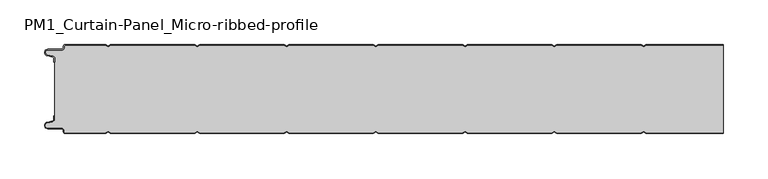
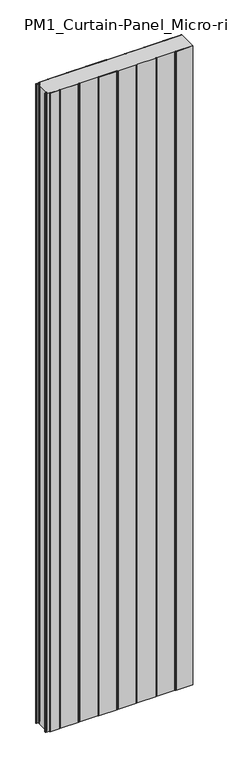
"""IFC4 building model written with IfcOpenShell, lengths in millimetres: plate geometry, PM1_Curtain-Panel_Micro-ribbed-profile : ACH_PM1_Stone-wool-Panel_100M."""

import ifcopenshell
import ifcopenshell.guid

model = None  # the IFC model being written
_history = None  # IfcOwnerHistory: only IFC2X3 demands one
_inside = {}  # id of a spatial element -> (the spatial element, [elements in it])
_under = {}  # id of a project, library or spatial element -> (it, [spatial elements below it])
_declared = {}  # id of a project -> (the project, [libraries it declares])
_typed = {}  # id of a type object -> (the type object, [elements of that type])
_made_of = {}  # id of a material, layer set ... -> (it, [elements and type objects made of it])


def new_model(schema):
    """Start an empty IFC model of exactly this schema.

    Asked for "IFC4X3", IfcOpenShell would pick the latest addendum, in which some entities
    have other attributes; the version numbers below select the first issue.
    IFC2X3 requires an IfcOwnerHistory on every rooted entity: one is made here for all.
    """
    global model, _history
    if schema == "IFC4X3":
        model = ifcopenshell.file(schema_version=(4, 3, 0, 0))
    else:
        model = ifcopenshell.file(schema=schema)
    _inside.clear()
    _under.clear()
    _declared.clear()
    _typed.clear()
    _made_of.clear()
    _history = None
    if model.schema == "IFC2X3":
        org = make("IfcOrganization", Name="unknown")
        user = make(
            "IfcPersonAndOrganization",
            ThePerson=make("IfcPerson", FamilyName="unknown"),
            TheOrganization=org,
        )
        app = make(
            "IfcApplication",
            ApplicationDeveloper=org,
            Version="unknown",
            ApplicationFullName="unknown",
            ApplicationIdentifier="unknown",
        )
        _history = make(
            "IfcOwnerHistory",
            OwningUser=user,
            OwningApplication=app,
            ChangeAction="ADDED",
            CreationDate=0,
        )
    return model


def make(cls, **values):
    """One entity of the class cls with the attributes given. An attribute that is None is left unset."""
    return model.create_entity(
        cls, **{name: value for name, value in values.items() if value is not None}
    )


def rooted(cls, **values):
    """An entity with a GlobalId (a new one), such as an element, a storey or a relation."""
    return make(cls, GlobalId=ifcopenshell.guid.new(), OwnerHistory=_history, **values)


def si_unit(unit_type, name, prefix=None):
    """IfcSIUnit, for example si_unit("LENGTHUNIT", "METRE", prefix="MILLI")."""
    return make("IfcSIUnit", UnitType=unit_type, Prefix=prefix, Name=name)


def assignment(units):
    """IfcUnitAssignment: the units of a project."""
    return None if units is None else make("IfcUnitAssignment", Units=units)


def point(xyz):
    """IfcCartesianPoint."""
    return None if xyz is None else make("IfcCartesianPoint", Coordinates=xyz)


def direction(xyz):
    """IfcDirection."""
    return None if xyz is None else make("IfcDirection", DirectionRatios=xyz)


def frame(location, z_axis=None, x_axis=None):
    """IfcAxis2Placement3D, a coordinate frame: its origin and axes. An axis left out is left unset."""
    return make(
        "IfcAxis2Placement3D",
        Location=point(location),
        Axis=direction(z_axis),
        RefDirection=direction(x_axis),
    )


def frame_2d(location, x_axis=None):
    """IfcAxis2Placement2D, a coordinate frame in the plane: its origin and x axis."""
    return make(
        "IfcAxis2Placement2D", Location=point(location), RefDirection=direction(x_axis)
    )


def origin():
    """The frame at (0, 0, 0) with its axes left unset."""
    return frame((0.0, 0.0, 0.0))


def origin_with_axes():
    """The frame at (0, 0, 0) with the z axis (0, 0, 1) and the x axis (1, 0, 0) written out."""
    return frame((0.0, 0.0, 0.0), z_axis=(0.0, 0.0, 1.0), x_axis=(1.0, 0.0, 0.0))


def place(relative_to, where):
    """IfcLocalPlacement: puts the frame where relative to a parent placement (None: the world)."""
    return make(
        "IfcLocalPlacement", PlacementRelTo=relative_to, RelativePlacement=where
    )


def context(
    kind, dimensions, precision=None, world=None, true_north=None, identifier=None
):
    """IfcGeometricRepresentationContext, for example the 3D "Model" context."""
    return make(
        "IfcGeometricRepresentationContext",
        ContextIdentifier=identifier,
        ContextType=kind,
        CoordinateSpaceDimension=dimensions,
        Precision=precision,
        WorldCoordinateSystem=world,
        TrueNorth=true_north,
    )


def project(units=None, contexts=None):
    """IfcProject with its units and contexts."""
    return rooted(
        "IfcProject",
        Name="project",
        RepresentationContexts=contexts,
        UnitsInContext=assignment(units),
    )


def spatial(cls, under=None, at=None, **own):
    """A site, building, storey or space (cls), placed at a placement, below another one or the project."""
    s = rooted(cls, ObjectPlacement=at, **own)
    if under is not None:
        _under.setdefault(under.id(), (under, []))[1].append(s)
    return s


def polyline(points):
    """IfcPolyline through the points."""
    return make("IfcPolyline", Points=[point(p) for p in points])


def circle_curve(where, radius):
    """IfcCircle in the frame where."""
    return make("IfcCircle", Position=where, Radius=radius)


def trimmed(basis, trim1, trim2, sense, master):
    """IfcTrimmedCurve: the piece of a basis curve between two trims."""
    return make(
        "IfcTrimmedCurve",
        BasisCurve=basis,
        Trim1=trim1,
        Trim2=trim2,
        SenseAgreement=sense,
        MasterRepresentation=master,
    )


def segment(curve, same_sense, transition):
    """IfcCompositeCurveSegment."""
    return make(
        "IfcCompositeCurveSegment",
        Transition=transition,
        SameSense=same_sense,
        ParentCurve=curve,
    )


def composite_curve(segments, self_intersect=None):
    """IfcCompositeCurve: segments joined end to end."""
    return make("IfcCompositeCurve", Segments=segments, SelfIntersect=self_intersect)


def outline(outer, holes=None, kind="AREA"):
    """IfcArbitraryClosedProfileDef: a profile drawn as a closed curve; with holes, ...WithVoids."""
    if holes is None:
        return make("IfcArbitraryClosedProfileDef", ProfileType=kind, OuterCurve=outer)
    return make(
        "IfcArbitraryProfileDefWithVoids",
        ProfileType=kind,
        OuterCurve=outer,
        InnerCurves=holes,
    )


def extrude(swept, where, along, depth):
    """IfcExtrudedAreaSolid: the profile swept, set in the frame where, extruded along a direction by depth."""
    return make(
        "IfcExtrudedAreaSolid",
        SweptArea=swept,
        Position=where,
        ExtrudedDirection=direction(along),
        Depth=depth,
    )


def shape(context_of_items, identifier, shape_type, items):
    """IfcShapeRepresentation: the items that make up one representation, for example the "Body"."""
    return make(
        "IfcShapeRepresentation",
        ContextOfItems=context_of_items,
        RepresentationIdentifier=identifier,
        RepresentationType=shape_type,
        Items=items,
    )


def source(mapping_origin, context_of_items, identifier, shape_type, items):
    """IfcRepresentationMap: a shape defined once, which mapped items show again and again."""
    return make(
        "IfcRepresentationMap",
        MappingOrigin=mapping_origin,
        MappedRepresentation=shape(context_of_items, identifier, shape_type, items),
    )


def transform(
    local_origin,
    x_axis=None,
    y_axis=None,
    z_axis=None,
    scale=None,
    scale2=None,
    scale3=None,
    uniform=True,
):
    """IfcCartesianTransformationOperator3D, or its non-uniform kind. x_axis, y_axis, z_axis: its Axis1, 2, 3."""
    if uniform:
        return make(
            "IfcCartesianTransformationOperator3D",
            Axis1=direction(x_axis),
            Axis2=direction(y_axis),
            LocalOrigin=point(local_origin),
            Scale=scale,
            Axis3=direction(z_axis),
        )
    return make(
        "IfcCartesianTransformationOperator3DnonUniform",
        Axis1=direction(x_axis),
        Axis2=direction(y_axis),
        LocalOrigin=point(local_origin),
        Scale=scale,
        Axis3=direction(z_axis),
        Scale2=scale2,
        Scale3=scale3,
    )


def mapped(mapping_source, mapping_target):
    """IfcMappedItem: shows the shape of a source again, moved by a transform."""
    return make(
        "IfcMappedItem", MappingSource=mapping_source, MappingTarget=mapping_target
    )


def made_of(thing, what):
    """Note that an element or type object is made of a material, layer set ...; save() writes the relation."""
    if what is not None:
        _made_of.setdefault(what.id(), (what, []))[1].append(thing)
    return thing


def element(
    cls,
    number,
    at=None,
    inside=None,
    cuts=None,
    type_object=None,
    material=None,
    context=None,
    identifier="Body",
    shape_type=None,
    held_by="IfcProductDefinitionShape",
    body=None,
    shapes=None,
    **own,
):
    """One element of the class cls, such as IfcWall. Its Tag is "e" and its number.

    at: its placement. inside: the storey or other place that contains it. cuts: it is an
    opening in that element (IfcRelVoidsElement). A single representation is given by context,
    identifier, shape_type and body (its items); several are given by shapes. held_by: the class
    of the entity that holds the representations. save() writes the other relations.
    """
    e = rooted(cls, Tag="e%d" % number, ObjectPlacement=at, **own)
    if body is not None:
        shapes = [shape(context, identifier, shape_type, body)]
    if shapes is not None:
        e.Representation = make(held_by, Representations=shapes)
    if inside is not None:
        _inside.setdefault(inside.id(), (inside, []))[1].append(e)
    if cuts is not None:
        rooted(
            "IfcRelVoidsElement", RelatingBuildingElement=cuts, RelatedOpeningElement=e
        )
    if type_object is not None:
        _typed.setdefault(type_object.id(), (type_object, []))[1].append(e)
    return made_of(e, material)


def aggregate(whole, parts):
    """IfcRelAggregates: a whole, such as a stair, and the parts it consists of."""
    return rooted("IfcRelAggregates", RelatingObject=whole, RelatedObjects=parts)


def save(model, path):
    """Write the relations noted so far, then the file.

    IfcRelAggregates (storeys below a building ...), IfcRelContainedInSpatialStructure (elements
    in a storey), IfcRelDefinesByType, IfcRelAssociatesMaterial and IfcRelDeclares: one each for
    every whole, place, type object, material and project.
    """
    for whole, parts in _under.values():
        aggregate(whole, parts)
    for where, things in _inside.values():
        rooted(
            "IfcRelContainedInSpatialStructure",
            RelatedElements=things,
            RelatingStructure=where,
        )
    for kind, things in _typed.values():
        rooted("IfcRelDefinesByType", RelatedObjects=things, RelatingType=kind)
    for what, things in _made_of.values():
        rooted("IfcRelAssociatesMaterial", RelatedObjects=things, RelatingMaterial=what)
    for by, libraries in _declared.values():
        rooted("IfcRelDeclares", RelatingContext=by, RelatedDefinitions=libraries)
    model.write(path)


def pm1_curtain_panel_micro_ribbed_profile_119ddfce(model_context):
    return source(origin(), model_context, "Body", "SweptSolid", [
        extrude(outline(composite_curve([segment(trimmed(circle_curve(frame_2d((-377.0, -15.878557)), 2.0), [point((-375.0, -15.878557))], [point((-376.5500978, -13.9298169))], True, "CARTESIAN"), True, "CONTINUOUS"), segment(polyline([(-376.5500978, -13.9298169), (-382.7098239, -12.507732)]), True, "CONTINUOUS"), segment(trimmed(circle_curve(frame_2d((-381.9, -9.0)), 3.6), [point((-382.7098239, -12.507732))], [point((-381.9, -5.4))], False, "CARTESIAN"), True, "CONTINUOUS"), segment(polyline([(-381.9, -5.4), (-366.4, -5.4)]), True, "CONTINUOUS"), segment(trimmed(circle_curve(frame_2d((-366.4, -3.4)), 2.0), [point((-366.4, -5.4))], [point((-364.4, -3.4))], True, "CARTESIAN"), True, "CONTINUOUS"), segment(polyline([(-364.4, -3.4), (-364.4, -2.0)]), True, "CONTINUOUS"), segment(trimmed(circle_curve(frame_2d((-362.4, -2.0)), 2.0), [point((-364.4, -2.0))], [point((-362.4, 0.0))], False, "CARTESIAN"), True, "CONTINUOUS"), segment(polyline([(-362.4, 0.0), (-317.0999995, 0.0), (-314.4, -1.5588455), (-311.7000005, 0.0), (-217.0999995, 0.0), (-214.4, -1.5588455), (-211.7000005, 0.0), (-117.0999995, 0.0), (-114.4, -1.5588455), (-111.7000005, 0.0), (-17.0999995, 0.0), (-14.4, -1.5588455), (-11.7000005, 0.0), (82.9000005, 0.0), (85.6, -1.5588455), (88.2999995, 0.0), (182.9000005, 0.0), (185.6, -1.5588455), (188.2999995, 0.0), (282.9000005, 0.0), (285.6, -1.5588455), (288.2999995, 0.0), (375.0, 0.0), (375.0, -0.8), (288.5143588, -0.8), (285.6, -2.482606), (282.6856412, -0.8), (188.5143588, -0.8), (185.6, -2.482606), (182.6856412, -0.8), (88.5143588, -0.8), (85.6, -2.482606), (82.6856412, -0.8), (-11.4856412, -0.8), (-14.4, -2.482606), (-17.3143588, -0.8), (-111.4856412, -0.8), (-114.4, -2.482606), (-117.3143588, -0.8), (-211.4856412, -0.8), (-214.4, -2.482606), (-217.3143588, -0.8), (-311.4856412, -0.8), (-314.4, -2.482606), (-317.3143588, -0.8), (-362.4, -0.8)]), True, "CONTINUOUS"), segment(trimmed(circle_curve(frame_2d((-362.4, -2.0)), 1.2), [point((-362.4, -0.8))], [point((-363.6, -2.0))], True, "CARTESIAN"), True, "CONTINUOUS"), segment(polyline([(-363.6, -2.0), (-363.6, -3.4)]), True, "CONTINUOUS"), segment(trimmed(circle_curve(frame_2d((-366.4, -3.4)), 2.8), [point((-363.6, -3.4))], [point((-366.4, -6.2))], False, "CARTESIAN"), True, "CONTINUOUS"), segment(polyline([(-366.4, -6.2), (-381.9, -6.2)]), True, "CONTINUOUS"), segment(trimmed(circle_curve(frame_2d((-381.9, -9.0)), 2.8), [point((-381.9, -6.2))], [point((-382.529863, -11.7282362))], True, "CARTESIAN"), True, "CONTINUOUS"), segment(polyline([(-382.529863, -11.7282362), (-376.370137, -13.150321)]), True, "CONTINUOUS"), segment(trimmed(circle_curve(frame_2d((-377.0, -15.878557)), 2.8), [point((-376.370137, -13.150321))], [point((-374.2, -15.878557))], False, "CARTESIAN"), True, "CONTINUOUS"), segment(polyline([(-374.2, -15.878557), (-374.2, -20.0), (-375.0, -20.0), (-375.0, -15.878557)]), True, "CONTINUOUS")], self_intersect=False)), origin_with_axes(), (0.0, 0.0, 1.0), 3500.0),
        extrude(outline(composite_curve([segment(polyline([(-374.2, -84.1214426), (-374.2, -15.8785573)]), True, "CONTINUOUS"), segment(trimmed(circle_curve(frame_2d((-377.0, -15.8785573)), 2.8), [point((-374.2, -15.8785573))], [point((-376.370137, -13.1503212))], True, "CARTESIAN"), True, "CONTINUOUS"), segment(polyline([(-376.370137, -13.1503212), (-382.5298631, -11.7282362)]), True, "CONTINUOUS"), segment(trimmed(circle_curve(frame_2d((-381.9, -9.0)), 2.8), [point((-382.5298631, -11.7282362))], [point((-381.9, -6.2))], False, "CARTESIAN"), True, "CONTINUOUS"), segment(polyline([(-381.9, -6.2), (-366.4000001, -6.2)]), True, "CONTINUOUS"), segment(trimmed(circle_curve(frame_2d((-366.4000001, -3.4)), 2.8), [point((-366.4000001, -6.2))], [point((-363.6000001, -3.4))], True, "CARTESIAN"), True, "CONTINUOUS"), segment(polyline([(-363.6000001, -3.4), (-363.6000001, -2.0)]), True, "CONTINUOUS"), segment(trimmed(circle_curve(frame_2d((-362.4000001, -2.0)), 1.2), [point((-363.6000001, -2.0))], [point((-362.4000001, -0.8))], False, "CARTESIAN"), True, "CONTINUOUS"), segment(polyline([(-362.4000001, -0.8), (-317.3143589, -0.8), (-314.4000001, -2.482606), (-311.4856412, -0.8), (-217.3143589, -0.8), (-214.4000001, -2.482606), (-211.4856412, -0.8), (-117.3143589, -0.8), (-114.4000001, -2.482606), (-111.4856412, -0.8), (-17.3143589, -0.8), (-14.4000001, -2.482606), (-11.4856412, -0.8), (82.6856411, -0.8), (85.5999999, -2.482606), (88.5143588, -0.8), (182.6856411, -0.8), (185.5999999, -2.482606), (188.5143588, -0.8), (282.6856411, -0.8), (285.5999999, -2.482606), (288.5143588, -0.8), (375.0, -0.8), (375.0, -99.2), (288.5143588, -99.2), (285.5999999, -97.517394), (282.6856411, -99.2), (188.5143588, -99.2), (185.5999999, -97.517394), (182.6856411, -99.2), (88.5143588, -99.2), (85.5999999, -97.517394), (82.6856411, -99.2), (-11.4856412, -99.2), (-14.4000001, -97.517394), (-17.3143589, -99.2), (-111.4856412, -99.2), (-114.4000001, -97.517394), (-117.3143589, -99.2), (-211.4856412, -99.2), (-214.4000001, -97.517394), (-217.3143589, -99.2), (-311.4856412, -99.2), (-314.4000001, -97.517394), (-317.3143589, -99.2), (-362.4000001, -99.2)]), True, "CONTINUOUS"), segment(trimmed(circle_curve(frame_2d((-362.4000001, -98.0)), 1.2), [point((-362.4000001, -99.2))], [point((-363.6000001, -98.0))], False, "CARTESIAN"), True, "CONTINUOUS"), segment(polyline([(-363.6000001, -98.0), (-363.6000001, -96.6)]), True, "CONTINUOUS"), segment(trimmed(circle_curve(frame_2d((-366.4000001, -96.6)), 2.8), [point((-363.6000001, -96.6))], [point((-366.4000001, -93.8))], True, "CARTESIAN"), True, "CONTINUOUS"), segment(polyline([(-366.4000001, -93.8), (-381.9, -93.8)]), True, "CONTINUOUS"), segment(trimmed(circle_curve(frame_2d((-381.9, -91.0)), 2.8), [point((-381.9, -93.8))], [point((-382.5298631, -88.2717638))], False, "CARTESIAN"), True, "CONTINUOUS"), segment(polyline([(-382.5298631, -88.2717638), (-376.370137, -86.8496788)]), True, "CONTINUOUS"), segment(trimmed(circle_curve(frame_2d((-377.0, -84.1214426)), 2.8), [point((-376.370137, -86.8496788))], [point((-374.2, -84.1214426))], True, "CARTESIAN"), True, "CONTINUOUS")], self_intersect=False)), origin_with_axes(), (0.0, 0.0, 1.0), 3500.0),
        extrude(outline(composite_curve([segment(polyline([(-375.0, -84.121443), (-375.0, -80.0), (-374.2, -80.0), (-374.2, -84.121443)]), True, "CONTINUOUS"), segment(trimmed(circle_curve(frame_2d((-377.0, -84.121443)), 2.8), [point((-374.2, -84.121443))], [point((-376.370137, -86.8496792))], False, "CARTESIAN"), True, "CONTINUOUS"), segment(polyline([(-376.370137, -86.8496792), (-382.529863, -88.271764)]), True, "CONTINUOUS"), segment(trimmed(circle_curve(frame_2d((-381.9, -91.0)), 2.8), [point((-382.529863, -88.271764))], [point((-381.9, -93.8))], True, "CARTESIAN"), True, "CONTINUOUS"), segment(polyline([(-381.9, -93.8), (-366.4, -93.8)]), True, "CONTINUOUS"), segment(trimmed(circle_curve(frame_2d((-366.4, -96.6)), 2.8), [point((-366.4, -93.8))], [point((-363.6, -96.6))], False, "CARTESIAN"), True, "CONTINUOUS"), segment(polyline([(-363.6, -96.6), (-363.6, -98.0)]), True, "CONTINUOUS"), segment(trimmed(circle_curve(frame_2d((-362.4, -98.0)), 1.2), [point((-363.6, -98.0))], [point((-362.4, -99.2))], True, "CARTESIAN"), True, "CONTINUOUS"), segment(polyline([(-362.4, -99.2), (-317.3143588, -99.2), (-314.4, -97.517394), (-311.4856412, -99.2), (-217.3143588, -99.2), (-214.4, -97.517394), (-211.4856412, -99.2), (-117.3143588, -99.2), (-114.4, -97.517394), (-111.4856412, -99.2), (-17.3143588, -99.2), (-14.4, -97.517394), (-11.4856412, -99.2), (82.6856412, -99.2), (85.6, -97.517394), (88.5143588, -99.2), (182.6856412, -99.2), (185.6, -97.517394), (188.5143588, -99.2), (282.6856412, -99.2), (285.6, -97.517394), (288.5143588, -99.2), (375.0, -99.2), (375.0, -100.0), (288.2999995, -100.0), (285.6, -98.4411545), (282.9000005, -100.0), (188.2999995, -100.0), (185.6, -98.4411545), (182.9000005, -100.0), (88.2999995, -100.0), (85.6, -98.4411545), (82.9000005, -100.0), (-11.7000005, -100.0), (-14.4, -98.4411545), (-17.0999995, -100.0), (-111.7000005, -100.0), (-114.4, -98.4411545), (-117.0999995, -100.0), (-211.7000005, -100.0), (-214.4, -98.4411545), (-217.0999995, -100.0), (-311.7000005, -100.0), (-314.4, -98.4411545), (-317.0999995, -100.0), (-362.4, -100.0)]), True, "CONTINUOUS"), segment(trimmed(circle_curve(frame_2d((-362.4, -98.0)), 2.0), [point((-362.4, -100.0))], [point((-364.4, -98.0))], False, "CARTESIAN"), True, "CONTINUOUS"), segment(polyline([(-364.4, -98.0), (-364.4, -96.6)]), True, "CONTINUOUS"), segment(trimmed(circle_curve(frame_2d((-366.4, -96.6)), 2.0), [point((-364.4, -96.6))], [point((-366.4, -94.6))], True, "CARTESIAN"), True, "CONTINUOUS"), segment(polyline([(-366.4, -94.6), (-381.9, -94.6)]), True, "CONTINUOUS"), segment(trimmed(circle_curve(frame_2d((-381.9, -91.0)), 3.6), [point((-381.9, -94.6))], [point((-382.7098239, -87.4922678))], False, "CARTESIAN"), True, "CONTINUOUS"), segment(polyline([(-382.7098239, -87.4922678), (-376.5500979, -86.070183)]), True, "CONTINUOUS"), segment(trimmed(circle_curve(frame_2d((-377.0, -84.121443)), 2.0), [point((-376.5500979, -86.070183))], [point((-375.0, -84.121443))], True, "CARTESIAN"), True, "CONTINUOUS")], self_intersect=False)), origin_with_axes(), (0.0, 0.0, 1.0), 3500.0),
    ])


if __name__ == "__main__":
    model = new_model("IFC4")
    model_context = context("Model", 3, world=origin())
    ifc_project = project(units=[si_unit("LENGTHUNIT", "METRE", prefix="MILLI")], contexts=[model_context])
    site = spatial("IfcSite", under=ifc_project)
    building = spatial("IfcBuilding", under=site)
    placement = place(None, origin())
    pm1_curtain_panel_micro_ribbed_profile_shape = pm1_curtain_panel_micro_ribbed_profile_119ddfce(model_context)
    element("IfcPlate", 1, ObjectType="PM1_Curtain-Panel_Micro-ribbed-profile : ACH_PM1_Stone-wool-Panel_100M", at=placement, inside=building, context=model_context, shape_type="MappedRepresentation", body=[
        mapped(pm1_curtain_panel_micro_ribbed_profile_shape, transform((0.0, 0.0, 0.0), x_axis=(1.0, 0.0, 0.0), y_axis=(0.0, 1.0, 0.0), z_axis=(0.0, 0.0, 1.0))),
    ])
    save(model, "model.ifc")
